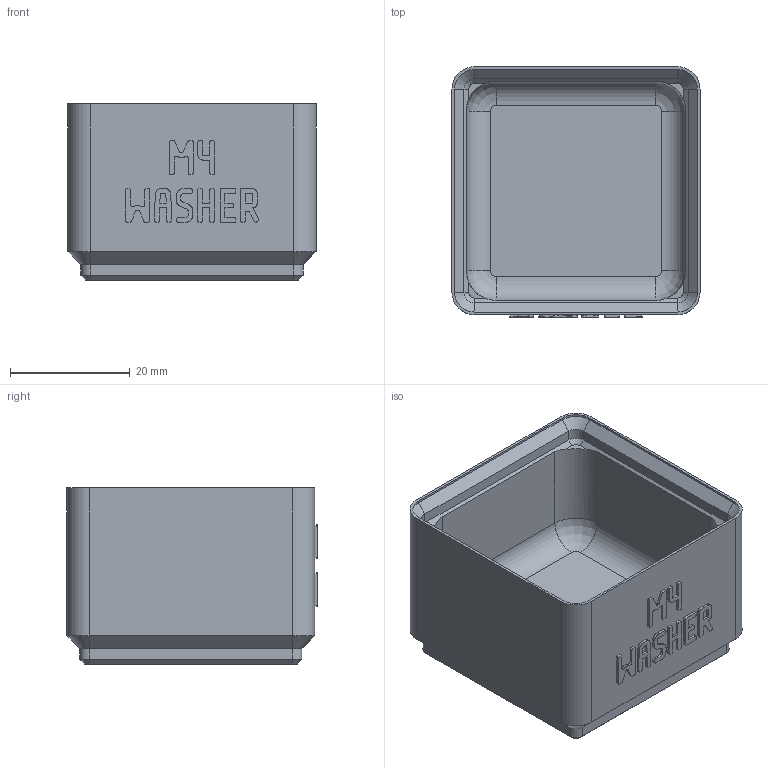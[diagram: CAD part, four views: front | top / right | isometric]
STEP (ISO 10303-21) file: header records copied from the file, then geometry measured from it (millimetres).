
FILE_DESCRIPTION(('Open CASCADE Model'),'2;1');
FILE_NAME('Open CASCADE Shape Model','2026-11-03T10:24:00',('Author'),( 'Open CASCADE'),'Open CASCADE STEP processor 8.0','build123d', 'Unknown');
FILE_SCHEMA(('AUTOMOTIVE_DESIGN { 1 0 10303 214 1 1 1 1 }'));
Products named in the file (1): COMPOUND
Bounding box: 41.5 x 41.9 x 29.5 mm (x, y, z)
Volume: 18948 mm3; surface area: 10664.1 mm2
Topology: 1 solids, 1 shells, 905 faces, 2620 edges, 1728 vertices
Faces by surface type: plane 861, cylinder 24, cone 16, revolution 4
Entity records: 61500 total; most frequent: CARTESIAN_POINT 12466, DIRECTION 7904, LINE 5940, VECTOR 5940, ORIENTED_EDGE 5240, PCURVE 5240, DEFINITIONAL_REPRESENTATION 5240, EDGE_CURVE 2620
